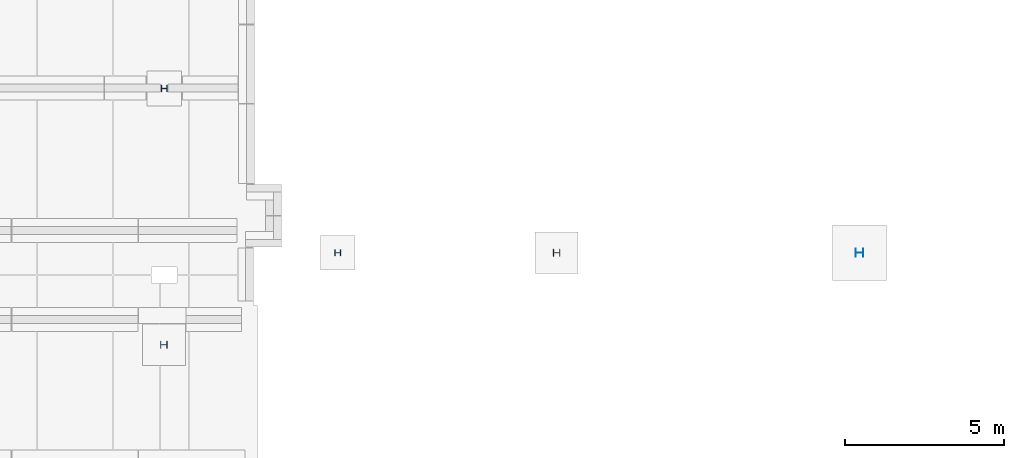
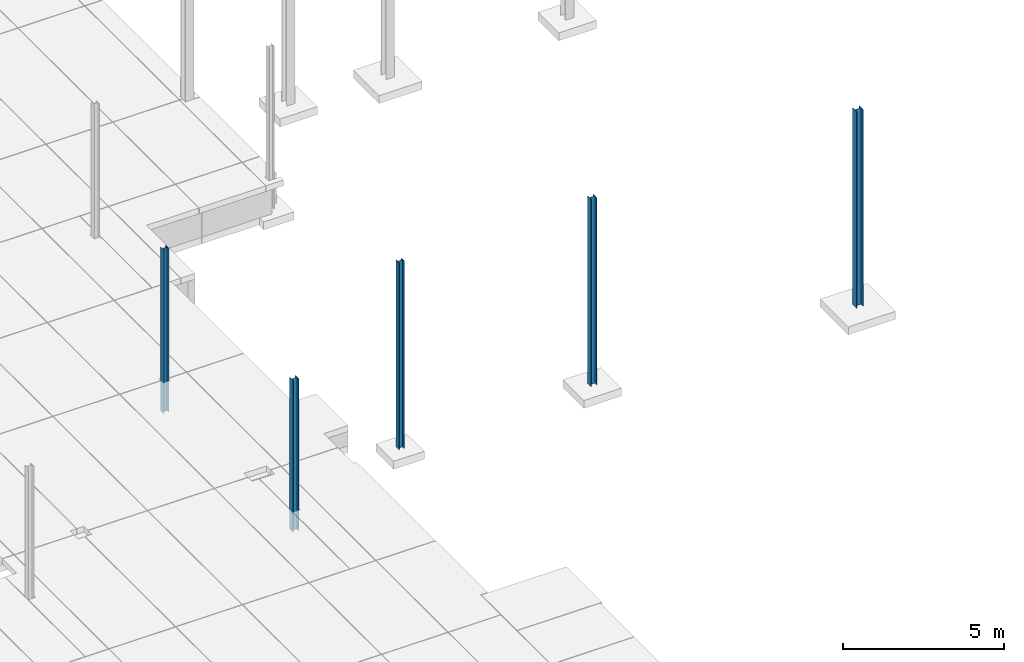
# One storey, part 35 of 59: 5 columns.
"""IFC2X3 building model written with IfcOpenShell, lengths in metres."""

import ifcopenshell
import ifcopenshell.guid

model = None  # the IFC model being written
_history = None  # IfcOwnerHistory: only IFC2X3 demands one
_inside = {}  # id of a spatial element -> (the spatial element, [elements in it])
_under = {}  # id of a project, library or spatial element -> (it, [spatial elements below it])
_declared = {}  # id of a project -> (the project, [libraries it declares])
_typed = {}  # id of a type object -> (the type object, [elements of that type])
_made_of = {}  # id of a material, layer set ... -> (it, [elements and type objects made of it])


def new_model(schema):
    """Start an empty IFC model of exactly this schema.

    Asked for "IFC4X3", IfcOpenShell would pick the latest addendum, in which some entities
    have other attributes; the version numbers below select the first issue.
    IFC2X3 requires an IfcOwnerHistory on every rooted entity: one is made here for all.
    """
    global model, _history
    if schema == "IFC4X3":
        model = ifcopenshell.file(schema_version=(4, 3, 0, 0))
    else:
        model = ifcopenshell.file(schema=schema)
    _inside.clear()
    _under.clear()
    _declared.clear()
    _typed.clear()
    _made_of.clear()
    _history = None
    if model.schema == "IFC2X3":
        org = make("IfcOrganization", Name="unknown")
        user = make(
            "IfcPersonAndOrganization",
            ThePerson=make("IfcPerson", FamilyName="unknown"),
            TheOrganization=org,
        )
        app = make(
            "IfcApplication",
            ApplicationDeveloper=org,
            Version="unknown",
            ApplicationFullName="unknown",
            ApplicationIdentifier="unknown",
        )
        _history = make(
            "IfcOwnerHistory",
            OwningUser=user,
            OwningApplication=app,
            ChangeAction="ADDED",
            CreationDate=0,
        )
    return model


def make(cls, **values):
    """One entity of the class cls with the attributes given. An attribute that is None is left unset."""
    return model.create_entity(
        cls, **{name: value for name, value in values.items() if value is not None}
    )


def entity(cls, *values):
    """Any entity or typed value of the class cls, its attributes in the order of the schema. None: left unset."""
    e = model.create_entity(cls)
    for i, value in enumerate(values):
        if value is not None:
            e[i] = value
    return e


def rooted(cls, **values):
    """An entity with a GlobalId (a new one), such as an element, a storey or a relation."""
    return make(cls, GlobalId=ifcopenshell.guid.new(), OwnerHistory=_history, **values)


def si_unit(unit_type, name, prefix=None):
    """IfcSIUnit, for example si_unit("LENGTHUNIT", "METRE", prefix="MILLI")."""
    return make("IfcSIUnit", UnitType=unit_type, Prefix=prefix, Name=name)


def converted_unit(unit_type, name, factor, base, dimensions=None, offset=None):
    """IfcConversionBasedUnit, such as the inch: factor (a typed value) times the base unit."""
    return make(
        "IfcConversionBasedUnit"
        if offset is None
        else "IfcConversionBasedUnitWithOffset",
        ConversionOffset=offset,
        Dimensions=None
        if dimensions is None
        else entity("IfcDimensionalExponents", *dimensions),
        UnitType=unit_type,
        Name=name,
        ConversionFactor=make(
            "IfcMeasureWithUnit", ValueComponent=factor, UnitComponent=base
        ),
    )


def derived_unit(unit_type, elements):
    """IfcDerivedUnit: a product of units, each with its exponent."""
    return make(
        "IfcDerivedUnit",
        Elements=[
            make("IfcDerivedUnitElement", Unit=unit, Exponent=power)
            for unit, power in elements
        ],
        UnitType=unit_type,
    )


def assignment(units):
    """IfcUnitAssignment: the units of a project."""
    return None if units is None else make("IfcUnitAssignment", Units=units)


def point(xyz):
    """IfcCartesianPoint."""
    return None if xyz is None else make("IfcCartesianPoint", Coordinates=xyz)


def direction(xyz):
    """IfcDirection."""
    return None if xyz is None else make("IfcDirection", DirectionRatios=xyz)


def frame(location, z_axis=None, x_axis=None):
    """IfcAxis2Placement3D, a coordinate frame: its origin and axes. An axis left out is left unset."""
    return make(
        "IfcAxis2Placement3D",
        Location=point(location),
        Axis=direction(z_axis),
        RefDirection=direction(x_axis),
    )


def origin():
    """The frame at (0, 0, 0) with its axes left unset."""
    return frame((0.0, 0.0, 0.0))


def origin_with_axes():
    """The frame at (0, 0, 0) with the z axis (0, 0, 1) and the x axis (1, 0, 0) written out."""
    return frame((0.0, 0.0, 0.0), z_axis=(0.0, 0.0, 1.0), x_axis=(1.0, 0.0, 0.0))


def place(relative_to, where):
    """IfcLocalPlacement: puts the frame where relative to a parent placement (None: the world)."""
    return make(
        "IfcLocalPlacement", PlacementRelTo=relative_to, RelativePlacement=where
    )


def context(
    kind, dimensions, precision=None, world=None, true_north=None, identifier=None
):
    """IfcGeometricRepresentationContext, for example the 3D "Model" context."""
    return make(
        "IfcGeometricRepresentationContext",
        ContextIdentifier=identifier,
        ContextType=kind,
        CoordinateSpaceDimension=dimensions,
        Precision=precision,
        WorldCoordinateSystem=world,
        TrueNorth=true_north,
    )


def subcontext(parent, identifier, kind, view, scale=None):
    """IfcGeometricRepresentationSubContext, for example "Body" below "Model"."""
    return make(
        "IfcGeometricRepresentationSubContext",
        ContextIdentifier=identifier,
        ContextType=kind,
        ParentContext=parent,
        TargetScale=scale,
        TargetView=view,
    )


def project(units=None, contexts=None):
    """IfcProject with its units and contexts."""
    return rooted(
        "IfcProject",
        Name="project",
        RepresentationContexts=contexts,
        UnitsInContext=assignment(units),
    )


def spatial(cls, under=None, at=None, **own):
    """A site, building, storey or space (cls), placed at a placement, below another one or the project."""
    s = rooted(cls, ObjectPlacement=at, **own)
    if under is not None:
        _under.setdefault(under.id(), (under, []))[1].append(s)
    return s


def polyline(points):
    """IfcPolyline through the points."""
    return make("IfcPolyline", Points=[point(p) for p in points])


def outline(outer, holes=None, kind="AREA"):
    """IfcArbitraryClosedProfileDef: a profile drawn as a closed curve; with holes, ...WithVoids."""
    if holes is None:
        return make("IfcArbitraryClosedProfileDef", ProfileType=kind, OuterCurve=outer)
    return make(
        "IfcArbitraryProfileDefWithVoids",
        ProfileType=kind,
        OuterCurve=outer,
        InnerCurves=holes,
    )


def extrude(swept, where, along, depth):
    """IfcExtrudedAreaSolid: the profile swept, set in the frame where, extruded along a direction by depth."""
    return make(
        "IfcExtrudedAreaSolid",
        SweptArea=swept,
        Position=where,
        ExtrudedDirection=direction(along),
        Depth=depth,
    )


def shape(context_of_items, identifier, shape_type, items):
    """IfcShapeRepresentation: the items that make up one representation, for example the "Body"."""
    return make(
        "IfcShapeRepresentation",
        ContextOfItems=context_of_items,
        RepresentationIdentifier=identifier,
        RepresentationType=shape_type,
        Items=items,
    )


def material(Name=None, Category=None):
    """IfcMaterial."""
    return make("IfcMaterial", Name=Name, Category=Category)


def made_of(thing, what):
    """Note that an element or type object is made of a material, layer set ...; save() writes the relation."""
    if what is not None:
        _made_of.setdefault(what.id(), (what, []))[1].append(thing)
    return thing


def element(
    cls,
    number,
    at=None,
    inside=None,
    cuts=None,
    type_object=None,
    material=None,
    context=None,
    identifier="Body",
    shape_type=None,
    held_by="IfcProductDefinitionShape",
    body=None,
    shapes=None,
    **own,
):
    """One element of the class cls, such as IfcWall. Its Tag is "e" and its number.

    at: its placement. inside: the storey or other place that contains it. cuts: it is an
    opening in that element (IfcRelVoidsElement). A single representation is given by context,
    identifier, shape_type and body (its items); several are given by shapes. held_by: the class
    of the entity that holds the representations. save() writes the other relations.
    """
    e = rooted(cls, Tag="e%d" % number, ObjectPlacement=at, **own)
    if body is not None:
        shapes = [shape(context, identifier, shape_type, body)]
    if shapes is not None:
        e.Representation = make(held_by, Representations=shapes)
    if inside is not None:
        _inside.setdefault(inside.id(), (inside, []))[1].append(e)
    if cuts is not None:
        rooted(
            "IfcRelVoidsElement", RelatingBuildingElement=cuts, RelatedOpeningElement=e
        )
    if type_object is not None:
        _typed.setdefault(type_object.id(), (type_object, []))[1].append(e)
    return made_of(e, material)


def aggregate(whole, parts):
    """IfcRelAggregates: a whole, such as a stair, and the parts it consists of."""
    return rooted("IfcRelAggregates", RelatingObject=whole, RelatedObjects=parts)


def save(model, path):
    """Write the relations noted so far, then the file.

    IfcRelAggregates (storeys below a building ...), IfcRelContainedInSpatialStructure (elements
    in a storey), IfcRelDefinesByType, IfcRelAssociatesMaterial and IfcRelDeclares: one each for
    every whole, place, type object, material and project.
    """
    for whole, parts in _under.values():
        aggregate(whole, parts)
    for where, things in _inside.values():
        rooted(
            "IfcRelContainedInSpatialStructure",
            RelatedElements=things,
            RelatingStructure=where,
        )
    for kind, things in _typed.values():
        rooted("IfcRelDefinesByType", RelatedObjects=things, RelatingType=kind)
    for what, things in _made_of.values():
        rooted("IfcRelAssociatesMaterial", RelatedObjects=things, RelatingMaterial=what)
    for by, libraries in _declared.values():
        rooted("IfcRelDeclares", RelatingContext=by, RelatedDefinitions=libraries)
    model.write(path)


model = new_model("IFC2X3")

# Units and contexts
model_context = context("Model", 3, precision=1e-05, world=origin())
body_context = subcontext(model_context, "Body", "Model", "MODEL_VIEW")
ifc_project = project(units=[si_unit("LENGTHUNIT", "METRE"), si_unit("AREAUNIT", "SQUARE_METRE"), si_unit("VOLUMEUNIT", "CUBIC_METRE"), si_unit("MASSUNIT", "GRAM", prefix="KILO"), converted_unit("PLANEANGLEUNIT", "DEGREE", entity("IfcPlaneAngleMeasure", 0.0174532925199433), si_unit("PLANEANGLEUNIT", "RADIAN"), dimensions=[0, 0, 0, 0, 0, 0, 0]), derived_unit("THERMALTRANSMITTANCEUNIT", [(si_unit("POWERUNIT", "WATT"), 1), (si_unit("THERMODYNAMICTEMPERATUREUNIT", "KELVIN"), -1), (si_unit("LENGTHUNIT", "METRE"), -2)]), derived_unit("VOLUMETRICFLOWRATEUNIT", [(si_unit("LENGTHUNIT", "METRE"), 3), (converted_unit("TIMEUNIT", "hour", entity("IfcTimeMeasure", 3600.0), si_unit("TIMEUNIT", "SECOND"), dimensions=[0, 0, 1, 0, 0, 0, 0]), -1), (si_unit("LENGTHUNIT", "METRE"), -1)])], contexts=[model_context])

# Site, building, storey
site_placement = place(None, origin())
site = spatial("IfcSite", under=ifc_project, at=site_placement, Name="TWP_Speiseverteilzentrum SBW VZ II", CompositionType="ELEMENT")
building_placement = place(site_placement, origin())
building = spatial("IfcBuilding", under=site, at=building_placement, Name="Speiseverteilzentrum SBW VZ II", CompositionType="ELEMENT")
storey_placement = place(building_placement, frame((0.0, 0.0, 1.7307)))
storey = spatial("IfcBuildingStorey", under=building, at=storey_placement, Name="EG_Produktion_FFB", CompositionType="ELEMENT", Elevation=1.7307)

# Columns
ifc_material_1 = material(Name="S235")
column_1_placement = place(storey_placement, frame((66.3094595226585, 57.3796420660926, -1.45)))
element("IfcColumn", 1, at=column_1_placement, inside=storey, material=ifc_material_1, Name="Stahlstütze", context=body_context, shape_type="SweptSolid", body=[
    extrude(outline(polyline([(0.19, 0.0), (0.19, 0.2), (0.18, 0.2), (0.18, 0.10325), (0.01, 0.10325), (0.01, 0.2), (0.0, 0.2), (0.0, 0.0), (0.01, 0.0), (0.01, 0.09675), (0.18, 0.09675), (0.18, 0.0), (0.19, 0.0)])), origin_with_axes(), (0.0, 0.0, 1.0), 6.22),
])
ifc_material_2 = material(Name="S235")
column_2_placement = place(storey_placement, frame((66.2894595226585, 49.289720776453, -1.05)))
element("IfcColumn", 2, at=column_2_placement, inside=storey, material=ifc_material_2, Name="Stahlstütze", context=body_context, shape_type="SweptSolid", body=[
    extrude(outline(polyline([(0.21, 0.0), (0.21, 0.22), (0.199, 0.22), (0.199, 0.1135), (0.011, 0.1135), (0.011, 0.22), (0.0, 0.22), (0.0, 0.0), (0.011, 0.0), (0.011, 0.1065), (0.199, 0.1065), (0.199, 0.0), (0.21, 0.0)])), origin_with_axes(), (0.0, 0.0, 1.0), 5.77),
])
ifc_material_3 = material(Name="S235")
column_3_placement = place(storey_placement, frame((88.2016307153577, 52.1700000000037, -1.95)))
element("IfcColumn", 3, at=column_3_placement, inside=storey, material=ifc_material_3, Name="Stahlstütze", context=body_context, shape_type="SweptSolid", body=[
    extrude(outline(polyline([(0.0, 0.26), (0.0, 0.0), (0.0125, 0.0), (0.0125, 0.12625), (0.2375, 0.12625), (0.2375, 0.0), (0.25, 0.0), (0.25, 0.26), (0.2375, 0.26), (0.2375, 0.13375), (0.0125, 0.13375), (0.0125, 0.26), (0.0, 0.26)])), origin_with_axes(), (0.0, 0.0, 1.0), 7.4693),
])
ifc_material_4 = material(Name="S235")
column_4_placement = place(storey_placement, frame((78.6699999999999, 52.1900000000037, -1.6)))
element("IfcColumn", 4, at=column_4_placement, inside=storey, material=ifc_material_4, Name="Stahlstütze", context=body_context, shape_type="SweptSolid", body=[
    extrude(outline(polyline([(0.0, 0.22), (0.0, 0.0), (0.011, 0.0), (0.011, 0.1065), (0.199, 0.1065), (0.199, 0.0), (0.21, 0.0), (0.21, 0.22), (0.199, 0.22), (0.199, 0.1135), (0.011, 0.1135), (0.011, 0.22), (0.0, 0.22)])), origin_with_axes(), (0.0, 0.0, 1.0), 7.1193),
])
ifc_material_5 = material(Name="S235")
column_5_placement = place(storey_placement, frame((71.7799999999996, 52.1998968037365, -1.6)))
element("IfcColumn", 5, at=column_5_placement, inside=storey, material=ifc_material_5, Name="Stahlstütze", context=body_context, shape_type="SweptSolid", body=[
    extrude(outline(polyline([(0.19, 0.0), (0.19, 0.2), (0.18, 0.2), (0.18, 0.10325), (0.01, 0.10325), (0.01, 0.2), (0.0, 0.2), (0.0, 0.0), (0.01, 0.0), (0.01, 0.09675), (0.18, 0.09675), (0.18, 0.0), (0.19, 0.0)])), origin_with_axes(), (0.0, 0.0, 1.0), 7.1193),
])

save(model, "model.ifc")
